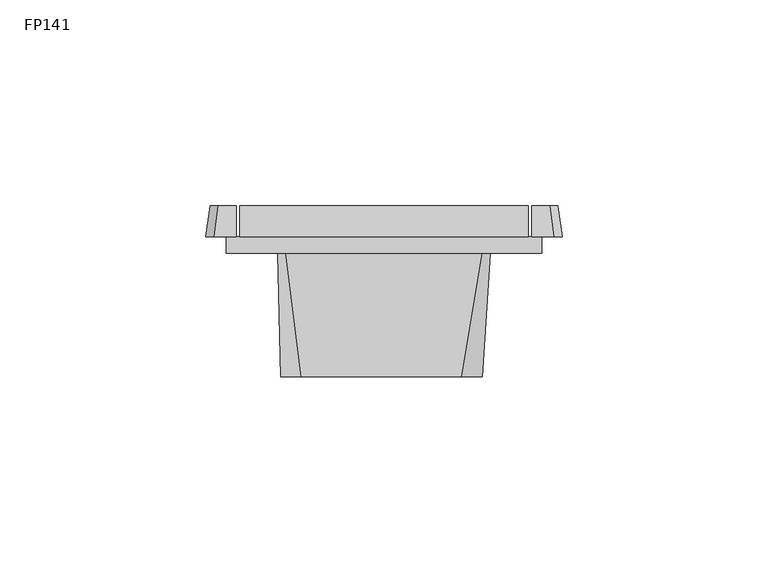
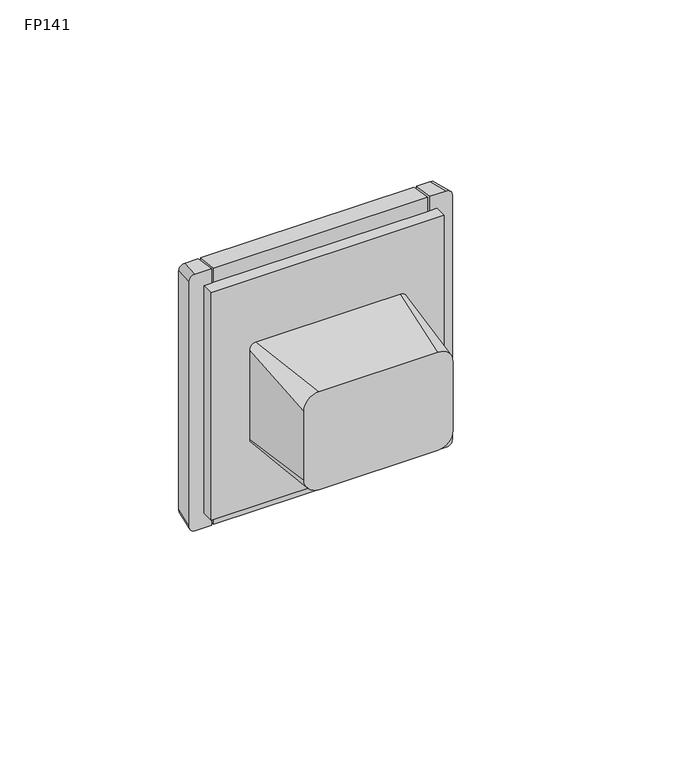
"""IFC4 building model written with IfcOpenShell, lengths in millimetres: proxy geometry, IEK_Forte&Piano_Заглушка с суппортом : FP141."""

from ifc_helpers import new_model, si_unit, point, frame, origin, place, context, project, spatial, circle_curve, trimmed, source, transform, mapped, element, save
from ifc_brep_helpers import plane_surface, extruded_surface, spline_surface, advanced_brep


def fp141_c827f63c(model_context):
    return source(origin(), model_context, "Body", "AdvancedBrep", [
        advanced_brep(
        [(-55.5728499, 4.0, -39.5), (-56.3576533, 4.0, -39.5), (-56.3576533, 4.0, 39.5), (-55.5728499, 4.0, 39.5), (15.3576533, 4.0, -39.5), (14.5728499, 4.0, -39.5), (14.5728499, 4.0, 39.5), (15.3576533, 4.0, 39.5), (-43.2, 4.0, 22.7), (2.2, 4.0, 22.7), (2.2, 4.0, -22.7), (-43.2, 4.0, -22.7), (1.4, 4.0, -21.9), (1.4, 4.0, 21.9), (-42.4, 4.0, 21.9), (-42.4, 4.0, -21.9), (-58.75, 0.0, 39.5), (-58.75, 0.0, -39.5), (17.75, 0.0, -39.5), (17.75, 0.0, 39.5), (-58.75, 4.0, 39.5), (-58.75, 4.0, -39.5), (17.75, 4.0, -39.5), (17.75, 4.0, 39.5), (19.75, 11.5, 43.5), (21.75, 11.5, 41.5), (21.75, 11.5, -41.5), (19.75, 11.5, -43.5), (15.3576533, 11.5, -43.5), (15.3576533, 11.5, 43.5), (-60.75, 11.5, -43.5), (-62.75, 11.5, -41.5), (-62.75, 11.5, 41.5), (-60.75, 11.5, 43.5), (-56.3576533, 11.5, 43.5), (-56.3576533, 11.5, -43.5), (-55.5728499, 11.5, 43.5), (14.5728499, 11.5, 43.5), (14.5728499, 11.5, -43.5), (-55.5728499, 11.5, -43.5), (2.2, 11.5, 22.7), (-43.2, 11.5, 22.7), (-43.2, 11.5, -22.7), (2.2, 11.5, -22.7), (1.4, 11.5, 21.9), (1.4, 11.5, -21.9), (-42.4, 11.5, -21.9), (-42.4, 11.5, 21.9), (-61.75, 4.0, 44.5), (-63.75, 4.0, 42.5), (-63.75, 4.0, -42.5), (-61.75, 4.0, -44.5), (-56.3576533, 4.0, -44.5), (-56.3576533, 4.0, 44.5), (20.75, 4.0, -44.5), (22.75, 4.0, -42.5), (22.75, 4.0, 42.5), (20.75, 4.0, 44.5), (15.3576533, 4.0, 44.5), (15.3576533, 4.0, -44.5), (14.5728499, 4.0, 44.5), (-55.5728499, 4.0, 44.5), (-55.5728499, 4.0, -44.5), (14.5728499, 4.0, -44.5)],
        [
            (0, 1),
            (1, 2),
            (2, 3),
            (3, 0),
            (4, 5),
            (5, 6),
            (6, 7),
            (7, 4),
            (8, 9),
            (9, 10),
            (10, 11),
            (11, 8),
            (12, 13),
            (13, 14),
            (14, 15),
            (15, 12),
            (16, 17),
            (17, 18),
            (18, 19),
            (19, 16),
            (16, 20),
            (20, 21),
            (21, 17),
            (21, 1),
            (0, 5),
            (4, 22),
            (22, 18),
            (22, 23),
            (23, 19),
            (23, 7),
            (6, 3),
            (2, 20),
            (24, 25, circle_curve(frame((19.75, 11.5, 41.5), z_axis=(0.0, 1.0, 0.0), x_axis=(-1.0, 0.0, 0.0)), 2.0)),
            (25, 26),
            (26, 27, circle_curve(frame((19.75, 11.5, -41.5), z_axis=(0.0, 1.0, 0.0), x_axis=(-1.0, 0.0, 0.0)), 2.0)),
            (27, 28),
            (28, 29),
            (29, 24),
            (30, 31, circle_curve(frame((-60.75, 11.5, -41.5), z_axis=(0.0, 1.0, 0.0), x_axis=(-1.0, 0.0, 0.0)), 2.0)),
            (31, 32),
            (32, 33, circle_curve(frame((-60.75, 11.5, 41.5), z_axis=(0.0, 1.0, 0.0), x_axis=(-1.0, 0.0, 0.0)), 2.0)),
            (33, 34),
            (34, 35),
            (35, 30),
            (36, 37),
            (37, 38),
            (38, 39),
            (39, 36),
            (40, 41),
            (41, 42),
            (42, 43),
            (43, 40),
            (44, 45),
            (45, 46),
            (46, 47),
            (47, 44),
            (48, 49, circle_curve(frame((-61.75, 4.0, 42.5), z_axis=(0.0, -1.0, 0.0), x_axis=(-1.0, 0.0, 0.0)), 2.0)),
            (49, 50),
            (50, 51, circle_curve(frame((-61.75, 4.0, -42.5), z_axis=(0.0, -1.0, 0.0), x_axis=(-1.0, 0.0, 0.0)), 2.0)),
            (51, 52),
            (52, 1),
            (2, 53),
            (53, 48),
            (54, 55, circle_curve(frame((20.75, 4.0, -42.5), z_axis=(0.0, -1.0, 0.0), x_axis=(-1.0, 0.0, 0.0)), 2.0)),
            (55, 56),
            (56, 57, circle_curve(frame((20.75, 4.0, 42.5), z_axis=(0.0, -1.0, 0.0), x_axis=(-1.0, 0.0, 0.0)), 2.0)),
            (57, 58),
            (58, 7),
            (4, 59),
            (59, 54),
            (60, 61),
            (61, 3),
            (6, 60),
            (62, 63),
            (63, 5),
            (0, 62),
            (60, 37),
            (36, 61),
            (57, 24),
            (29, 58),
            (33, 48),
            (53, 34),
            (56, 25),
            (55, 26),
            (54, 27),
            (62, 39),
            (38, 63),
            (59, 28),
            (51, 30),
            (35, 52),
            (50, 31),
            (49, 32),
            (8, 41),
            (40, 9),
            (43, 10),
            (42, 11),
            (12, 45),
            (44, 13),
            (47, 14),
            (46, 15),
        ],
        [
            plane_surface(frame((-58.75, 4.0, 39.5), z_axis=(0.0, 1.0, 0.0), x_axis=(0.0, 0.0, 1.0))),
            plane_surface(frame((-58.75, 0.0, 39.5), z_axis=(0.0, -1.0, 0.0), x_axis=(0.0, 0.0, -1.0))),
            plane_surface(frame((-58.75, 0.0, 39.5), z_axis=(-1.0, 0.0, 0.0), x_axis=(0.0, 1.0, 0.0))),
            plane_surface(frame((-58.75, 0.0, -39.5), z_axis=(0.0, 0.0, -1.0), x_axis=(0.0, 1.0, 0.0))),
            plane_surface(frame((17.75, 0.0, -39.5), z_axis=(1.0, 0.0, 0.0), x_axis=(0.0, 1.0, 0.0))),
            plane_surface(frame((17.75, 0.0, 39.5), z_axis=(0.0, 0.0, 1.0), x_axis=(0.0, 1.0, 0.0))),
            plane_surface(frame((-20.5, 11.5, 0.0), z_axis=(0.0, 1.0, 0.0), x_axis=(1.0, 0.0, 0.0))),
            plane_surface(frame((-20.5, 4.0, 0.0), z_axis=(0.0, -1.0, 0.0), x_axis=(1.0, 0.0, 0.0))),
            plane_surface(frame((-20.5, 4.0, 44.5), z_axis=(0.0, 0.13216372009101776, 0.9912279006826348), x_axis=(1.0, 0.0, 0.0))),
            extruded_surface(trimmed(circle_curve(frame((20.75, 4.0, 42.5), z_axis=(0.0, 1.0, 0.0), x_axis=(-1.0, 0.0, 0.0)), 2.0), [point((20.75, 4.0, 44.5))], [point((22.75, 4.0, 42.5))], True, "CARTESIAN"), (-1.0, 7.5, -1.0), 7.632168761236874),
            plane_surface(frame((22.75, 4.0, 0.0), z_axis=(0.9912279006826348, 0.13216372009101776, 0.0), x_axis=(0.0, 0.0, -1.0))),
            extruded_surface(trimmed(circle_curve(frame((20.75, 4.0, -42.5), z_axis=(0.0, 1.0, 0.0), x_axis=(-1.0, 0.0, 0.0)), 2.0), [point((22.75, 4.0, -42.5))], [point((20.75, 4.0, -44.5))], True, "CARTESIAN"), (-1.0, 7.5, 1.0), 7.632168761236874),
            plane_surface(frame((-20.5, 4.0, -44.5), z_axis=(0.0, 0.13216372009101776, -0.9912279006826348), x_axis=(-1.0, 0.0, 0.0))),
            extruded_surface(trimmed(circle_curve(frame((-61.75, 4.0, -42.5), z_axis=(0.0, 1.0, 0.0), x_axis=(-1.0, 0.0, 0.0)), 2.0), [point((-61.75, 4.0, -44.5))], [point((-63.75, 4.0, -42.5))], True, "CARTESIAN"), (1.0, 7.5, 1.0), 7.632168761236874),
            plane_surface(frame((-63.75, 4.0, 0.0), z_axis=(-0.9912279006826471, 0.13216372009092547, 0.0), x_axis=(0.0, 0.0, 1.0))),
            extruded_surface(trimmed(circle_curve(frame((-61.75, 4.0, 42.5), z_axis=(0.0, 1.0, 0.0), x_axis=(-1.0, 0.0, 0.0)), 2.0), [point((-63.75, 4.0, 42.5))], [point((-61.75, 4.0, 44.5))], True, "CARTESIAN"), (1.0, 7.5, -1.0), 7.632168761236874),
            plane_surface(frame((14.5728499, 11.5, -44.5), z_axis=(1.0, 0.0, 0.0), x_axis=(0.0, -1.0, 0.0))),
            plane_surface(frame((15.3576533, 11.5, 44.5), z_axis=(-1.0, 0.0, 0.0), x_axis=(0.0, -1.0, 0.0))),
            plane_surface(frame((-56.3576533, 11.5, -44.5), z_axis=(1.0, 0.0, 0.0), x_axis=(0.0, -1.0, 0.0))),
            plane_surface(frame((-55.5728499, 11.5, 44.5), z_axis=(-1.0, 0.0, 0.0), x_axis=(0.0, -1.0, 0.0))),
            plane_surface(frame((-43.2, 11.6, 22.7), z_axis=(0.0, 0.0, -1.0), x_axis=(0.0, -1.0, 0.0))),
            plane_surface(frame((2.2, 11.6, 22.7), z_axis=(-1.0, 0.0, 0.0), x_axis=(0.0, -1.0, 0.0))),
            plane_surface(frame((2.2, 11.6, -22.7), z_axis=(0.0, 0.0, 1.0), x_axis=(0.0, -1.0, 0.0))),
            plane_surface(frame((-43.2, 11.6, -22.7), z_axis=(1.0, 0.0, 0.0), x_axis=(0.0, -1.0, 0.0))),
            plane_surface(frame((1.4, 11.6, -21.9), z_axis=(1.0, 0.0, 0.0), x_axis=(0.0, -1.0, 0.0))),
            plane_surface(frame((1.4, 11.6, 21.9), z_axis=(0.0, 0.0, 1.0), x_axis=(0.0, -1.0, 0.0))),
            plane_surface(frame((-42.4, 11.6, 21.9), z_axis=(-1.0, 0.0, 0.0), x_axis=(0.0, -1.0, 0.0))),
            plane_surface(frame((-42.4, 11.6, -21.9), z_axis=(0.0, 0.0, -1.0), x_axis=(0.0, -1.0, 0.0))),
        ],
        [
            (0, [[1, 2, 3, 4]]),
            (0, [[5, 6, 7, 8]]),
            (0, [[9, 10, 11, 12], [13, 14, 15, 16]]),
            (1, [[17, 18, 19, 20]]),
            (2, [[-17, 21, 22, 23]]),
            (3, [[-18, -23, 24, -1, 25, -5, 26, 27]]),
            (4, [[-19, -27, 28, 29]]),
            (5, [[-20, -29, 30, -7, 31, -3, 32, -21]]),
            (6, [[33, 34, 35, 36, 37, 38]]),
            (6, [[39, 40, 41, 42, 43, 44]]),
            (6, [[45, 46, 47, 48], [49, 50, 51, 52]]),
            (6, [[53, 54, 55, 56]]),
            (7, [[57, 58, 59, 60, 61, -24, -22, -32, 62, 63]]),
            (7, [[64, 65, 66, 67, 68, -30, -28, -26, 69, 70]]),
            (7, [[71, 72, -31, 73]]),
            (7, [[74, 75, -25, 76]]),
            (8, [[-71, 77, -45, 78]]),
            (8, [[79, -38, 80, -67]]),
            (8, [[81, -63, 82, -42]]),
            (9, [[-33, -79, -66, 83]]),
            (10, [[-34, -83, -65, 84]]),
            (11, [[-35, -84, -64, 85]]),
            (12, [[-74, 86, -47, 87]]),
            (12, [[-85, -70, 88, -36]]),
            (12, [[89, -44, 90, -60]]),
            (13, [[-39, -89, -59, 91]]),
            (14, [[-40, -91, -58, 92]]),
            (15, [[-41, -92, -57, -81]]),
            (16, [[-46, -77, -73, -6, -75, -87]]),
            (17, [[-37, -88, -69, -8, -68, -80]]),
            (18, [[-43, -82, -62, -2, -61, -90]]),
            (19, [[-48, -86, -76, -4, -72, -78]]),
            (20, [[93, -49, 94, -9]]),
            (21, [[-94, -52, 95, -10]]),
            (22, [[-95, -51, 96, -11]]),
            (23, [[-93, -12, -96, -50]]),
            (24, [[97, -53, 98, -13]]),
            (25, [[-98, -56, 99, -14]]),
            (26, [[-99, -55, 100, -15]]),
            (27, [[-97, -16, -100, -54]]),
        ],
    ),
        advanced_brep(
        [(-1.6500177, -30.0, -17.0), (3.3499823, -30.0, -12.0), (3.3499823, -30.0, 12.0), (-1.6500177, -30.0, 17.0), (-40.5999823, -30.0, 17.0), (-45.5999823, -30.0, 12.0), (-45.5999823, -30.0, -12.0), (-40.5999823, -30.0, -17.0), (3.3191146, 0.0, -17.5), (-44.3191146, 0.0, -17.5), (-46.3191146, 0.0, -15.5), (-46.3191146, 0.0, 15.5), (-44.3191146, 0.0, 17.5), (3.3191146, 0.0, 17.5), (5.3191146, 0.0, 15.5), (5.3191146, 0.0, -15.5)],
        [
            (0, 1, circle_curve(frame((-1.6500177, -30.0, -12.0), z_axis=(0.0, -1.0, 0.0), x_axis=(0.0, 0.0, -1.0)), 5.0)),
            (1, 2),
            (2, 3, circle_curve(frame((-1.6500177, -30.0, 12.0), z_axis=(0.0, -1.0, 0.0), x_axis=(0.0, 0.0, -1.0)), 5.0)),
            (3, 4),
            (4, 5, circle_curve(frame((-40.5999823, -30.0, 12.0), z_axis=(0.0, -1.0, 0.0), x_axis=(0.0, 0.0, -1.0)), 5.0)),
            (5, 6),
            (6, 7, circle_curve(frame((-40.5999823, -30.0, -12.0), z_axis=(0.0, -1.0, 0.0), x_axis=(0.0, 0.0, -1.0)), 5.0)),
            (7, 0),
            (8, 9),
            (9, 10, circle_curve(frame((-44.3191146, 0.0, -15.5), z_axis=(0.0, 1.0, 0.0), x_axis=(0.0, 0.0, -1.0)), 2.0)),
            (10, 11),
            (11, 12, circle_curve(frame((-44.3191146, 0.0, 15.5), z_axis=(0.0, 1.0, 0.0), x_axis=(0.0, 0.0, -1.0)), 2.0)),
            (12, 13),
            (13, 14, circle_curve(frame((3.3191146, 0.0, 15.5), z_axis=(0.0, 1.0, 0.0), x_axis=(0.0, 0.0, -1.0)), 2.0)),
            (14, 15),
            (15, 8, circle_curve(frame((3.3191146, 0.0, -15.5), z_axis=(0.0, 1.0, 0.0), x_axis=(0.0, 0.0, -1.0)), 2.0)),
            (15, 1),
            (0, 8),
            (14, 2),
            (13, 3),
            (12, 4),
            (11, 5),
            (10, 6),
            (9, 7),
        ],
        [
            plane_surface(frame((-21.125, -30.0, 0.0), z_axis=(0.0, -1.0, 0.0), x_axis=(1.0, 0.0, 0.0))),
            plane_surface(frame((-20.5, 0.0, 0.0), z_axis=(0.0, 1.0, 0.0), x_axis=(1.0, 0.0, 0.0))),
            spline_surface(2, 1, [[(3.3191146, 0.0, -17.5), (-1.6500177, -30.0, -17.0)], [(5.3191146, 0.0, -17.5), (3.3499822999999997, -30.0, -17.0)], [(5.3191146, 0.0, -15.5), (3.3499823, -30.0, -12.0)]], [3, 3], [2, 2], [0.0, 1.0], [0.0, 1.0], weights=[[1.0, 1.0], [0.7071067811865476, 0.7071067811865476], [1.0, 1.0]]),
            plane_surface(frame((5.3191146, 0.0, 0.0), z_axis=(0.9978527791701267, -0.06549680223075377, 0.0), x_axis=(0.0, 0.0, 1.0))),
            spline_surface(2, 1, [[(5.3191146, 0.0, 15.5), (3.3499823, -30.0, 12.0)], [(5.3191146, 0.0, 17.5), (3.3499822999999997, -30.0, 17.0)], [(3.3191146, 0.0, 17.5), (-1.6500177, -30.0, 17.0)]], [3, 3], [2, 2], [0.0, 1.0], [0.0, 1.0], weights=[[1.0, 1.0], [0.7071067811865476, 0.7071067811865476], [1.0, 1.0]]),
            plane_surface(frame((-20.5, 0.0, 17.5), z_axis=(0.0, -0.016664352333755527, 0.9998611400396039), x_axis=(-1.0, 0.0, 0.0))),
            spline_surface(2, 1, [[(-44.3191146, 0.0, 17.5), (-40.5999823, -30.0, 17.0)], [(-46.3191146, 0.0, 17.5), (-45.5999823, -30.0, 17.0)], [(-46.3191146, 0.0, 15.5), (-45.5999823, -30.0, 12.0)]], [3, 3], [2, 2], [0.0, 1.0], [0.0, 1.0], weights=[[1.0, 1.0], [0.7071067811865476, 0.7071067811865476], [1.0, 1.0]]),
            plane_surface(frame((-46.3191146, 0.0, 0.0), z_axis=(-0.9997128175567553, -0.02396419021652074, 0.0), x_axis=(0.0, 0.0, -1.0))),
            spline_surface(2, 1, [[(-46.3191146, 0.0, -15.5), (-45.5999823, -30.0, -12.0)], [(-46.3191146, 0.0, -17.5), (-45.5999823, -30.0, -17.0)], [(-44.3191146, 0.0, -17.5), (-40.5999823, -30.0, -17.0)]], [3, 3], [2, 2], [0.0, 1.0], [0.0, 1.0], weights=[[1.0, 1.0], [0.7071067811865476, 0.7071067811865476], [1.0, 1.0]]),
            plane_surface(frame((-20.5, 0.0, -17.5), z_axis=(0.0, -0.016664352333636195, -0.9998611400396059), x_axis=(1.0, 0.0, 0.0))),
        ],
        [
            (0, [[1, 2, 3, 4, 5, 6, 7, 8]]),
            (1, [[9, 10, 11, 12, 13, 14, 15, 16]]),
            (2, [[-16, 17, -1, 18]]),
            (3, [[-15, 19, -2, -17]]),
            (4, [[-14, 20, -3, -19]]),
            (5, [[-13, 21, -4, -20]]),
            (6, [[-12, 22, -5, -21]]),
            (7, [[-11, 23, -6, -22]]),
            (8, [[-10, 24, -7, -23]]),
            (9, [[-9, -18, -8, -24]]),
        ],
    ),
    ])


if __name__ == "__main__":
    model = new_model("IFC4")
    model_context = context("Model", 3, world=origin())
    ifc_project = project(units=[si_unit("LENGTHUNIT", "METRE", prefix="MILLI")], contexts=[model_context])
    site = spatial("IfcSite", under=ifc_project)
    building = spatial("IfcBuilding", under=site)
    placement = place(None, origin())
    fp141_shape = fp141_c827f63c(model_context)
    element("IfcBuildingElementProxy", 1, Name="IEK_Forte&Piano_Заглушка с суппортом : FP141", ObjectType="IEK_Forte&Piano_Заглушка с суппортом : FP141", at=placement, inside=building, context=model_context, shape_type="MappedRepresentation", body=[
        mapped(fp141_shape, transform((0.0, 0.0, 0.0), x_axis=(1.0, 0.0, 0.0), y_axis=(0.0, 1.0, 0.0), z_axis=(0.0, 0.0, 1.0))),
    ])
    save(model, "model.ifc")
